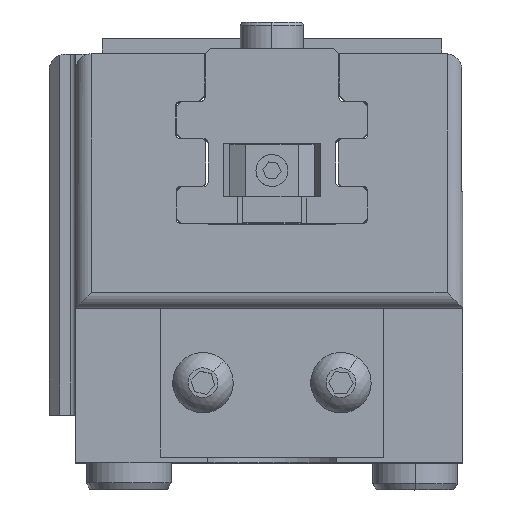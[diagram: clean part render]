
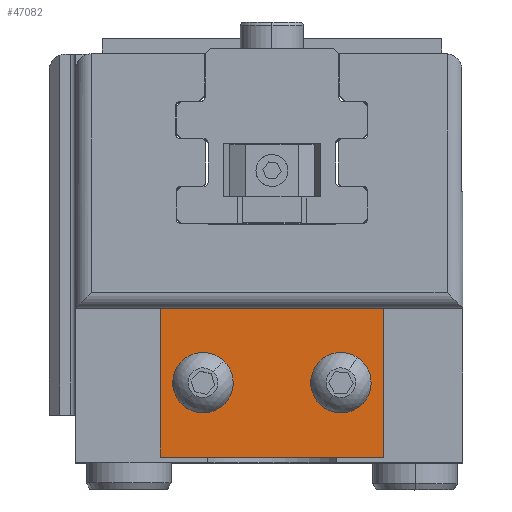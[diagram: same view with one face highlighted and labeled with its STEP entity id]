
A CAD part, top view. The second image highlights one B-rep face of the part: STEP entity #47082.
In plain terms, the highlighted planar face has unit normal (0, 0, 1) as drawn and (0, 1, 0) by its records, which use the part's own axes.
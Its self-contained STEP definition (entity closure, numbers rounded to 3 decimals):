
#142 = ORIENTED_EDGE ( 'NONE', *, *, #32370, .F. ) ;
#942 = EDGE_CURVE ( 'NONE', #68802, #52604, #68578, .T. ) ;
#4477 = FACE_OUTER_BOUND ( 'NONE', #95904, .T. ) ;
#5361 = CIRCLE ( 'NONE', #17533, 1.6 ) ;
#6053 = ORIENTED_EDGE ( 'NONE', *, *, #66755, .F. ) ;
#6381 = VECTOR ( 'NONE', #89986, 1000. ) ;
#6541 = LINE ( 'NONE', #55833, #14407 ) ;
#6695 = CARTESIAN_POINT ( 'NONE',  ( 17., 0., 1.6 ) ) ;
#12389 = EDGE_CURVE ( 'NONE', #97267, #81849, #39166, .T. ) ;
#12559 = CARTESIAN_POINT ( 'NONE',  ( 4., 0., 1.6 ) ) ;
#14407 = VECTOR ( 'NONE', #48692, 1000. ) ;
#14842 = CARTESIAN_POINT ( 'NONE',  ( 4., 0., -1.6 ) ) ;
#15610 = DIRECTION ( 'NONE',  ( 0., 0., -1. ) ) ;
#15690 = EDGE_CURVE ( 'Bordo4', #65507, #22083, #101957, .T. ) ;
#17533 = AXIS2_PLACEMENT_3D ( 'NONE', #62662, #79055, #36917 ) ;
#19061 = ORIENTED_EDGE ( 'NONE', *, *, #40778, .T. ) ;
#20097 = ORIENTED_EDGE ( 'NONE', *, *, #46593, .F. ) ;
#20587 = EDGE_LOOP ( 'NONE', ( #20097, #104430 ) ) ;
#21445 = CARTESIAN_POINT ( 'NONE',  ( 0., 0., 7. ) ) ;
#22083 = VERTEX_POINT ( 'NONE', #12559 ) ;
#22941 = LINE ( 'NONE', #56352, #50353 ) ;
#23212 = CARTESIAN_POINT ( 'NONE',  ( 21., 0., 7. ) ) ;
#29629 = DIRECTION ( 'NONE',  ( 0., 1., 0. ) ) ;
#30496 = EDGE_CURVE ( 'Bordo5', #61914, #62412, #105356, .T. ) ;
#32370 = EDGE_CURVE ( 'NONE', #61914, #97267, #22941, .T. ) ;
#33810 = ORIENTED_EDGE ( 'NONE', *, *, #12389, .F. ) ;
#35664 = DIRECTION ( 'NONE',  ( 0., 0., 1. ) ) ;
#36917 = DIRECTION ( 'NONE',  ( 0., 0., 1. ) ) ;
#38409 = DIRECTION ( 'NONE',  ( 0., -1., 0. ) ) ;
#39166 = LINE ( 'NONE', #58282, #99540 ) ;
#40778 = EDGE_CURVE ( 'Bordo7', #62412, #81849, #6541, .T. ) ;
#46532 = DIRECTION ( 'NONE',  ( -1., 0., 0. ) ) ;
#46593 = EDGE_CURVE ( 'Bordo4', #22083, #65507, #5361, .T. ) ;
#47082 = ADVANCED_FACE ( 'Faccia4', ( #56465, #96967, #4477 ), #79474, .F. ) ;
#47613 = AXIS2_PLACEMENT_3D ( 'NONE', #88875, #63155, #80639 ) ;
#48692 = DIRECTION ( 'NONE',  ( -1., 0., 0. ) ) ;
#50096 = CARTESIAN_POINT ( 'NONE',  ( 0., 0., -7. ) ) ;
#50353 = VECTOR ( 'NONE', #46532, 1000. ) ;
#51689 = CARTESIAN_POINT ( 'NONE',  ( 21., 0., 7. ) ) ;
#52604 = VERTEX_POINT ( 'NONE', #90959 ) ;
#53862 = ORIENTED_EDGE ( 'NONE', *, *, #942, .F. ) ;
#55833 = CARTESIAN_POINT ( 'NONE',  ( 0., 0., -7. ) ) ;
#56100 = AXIS2_PLACEMENT_3D ( 'NONE', #56960, #91391, #98019 ) ;
#56352 = CARTESIAN_POINT ( 'NONE',  ( 0., 0., 7. ) ) ;
#56465 = FACE_BOUND ( 'NONE', #66361, .T. ) ;
#56960 = CARTESIAN_POINT ( 'NONE',  ( 17., 0., 0. ) ) ;
#58282 = CARTESIAN_POINT ( 'NONE',  ( 0., 0., 7. ) ) ;
#61432 = CARTESIAN_POINT ( 'NONE',  ( 4., 0., 0. ) ) ;
#61914 = VERTEX_POINT ( 'NONE', #51689 ) ;
#62412 = VERTEX_POINT ( 'NONE', #75381 ) ;
#62662 = CARTESIAN_POINT ( 'NONE',  ( 4., 0., 0. ) ) ;
#63155 = DIRECTION ( 'NONE',  ( 0., 1., 0. ) ) ;
#65507 = VERTEX_POINT ( 'NONE', #14842 ) ;
#66361 = EDGE_LOOP ( 'NONE', ( #53862, #6053 ) ) ;
#66755 = EDGE_CURVE ( 'NONE', #52604, #68802, #71826, .T. ) ;
#68578 = CIRCLE ( 'NONE', #47613, 1.6 ) ;
#68802 = VERTEX_POINT ( 'NONE', #6695 ) ;
#71826 = CIRCLE ( 'NONE', #56100, 1.6 ) ;
#72280 = AXIS2_PLACEMENT_3D ( 'NONE', #61432, #29629, #35664 ) ;
#75381 = CARTESIAN_POINT ( 'NONE',  ( 21., 0., -7. ) ) ;
#79055 = DIRECTION ( 'NONE',  ( 0., 1., 0. ) ) ;
#79474 = PLANE ( 'NONE',  #104997 ) ;
#80639 = DIRECTION ( 'NONE',  ( 0., 0., 1. ) ) ;
#81849 = VERTEX_POINT ( 'NONE', #50096 ) ;
#85112 = ORIENTED_EDGE ( 'NONE', *, *, #30496, .T. ) ;
#88698 = CARTESIAN_POINT ( 'NONE',  ( 0., 0., 7. ) ) ;
#88875 = CARTESIAN_POINT ( 'NONE',  ( 17., 0., 0. ) ) ;
#89834 = DIRECTION ( 'NONE',  ( 0., 0., -1. ) ) ;
#89986 = DIRECTION ( 'NONE',  ( 0., 0., -1. ) ) ;
#90959 = CARTESIAN_POINT ( 'NONE',  ( 17., 0., -1.6 ) ) ;
#91391 = DIRECTION ( 'NONE',  ( 0., 1., 0. ) ) ;
#95904 = EDGE_LOOP ( 'NONE', ( #19061, #33810, #142, #85112 ) ) ;
#96967 = FACE_BOUND ( 'NONE', #20587, .T. ) ;
#97267 = VERTEX_POINT ( 'NONE', #88698 ) ;
#98019 = DIRECTION ( 'NONE',  ( 0., 0., 1. ) ) ;
#99540 = VECTOR ( 'NONE', #15610, 1000. ) ;
#101957 = CIRCLE ( 'NONE', #72280, 1.6 ) ;
#104430 = ORIENTED_EDGE ( 'NONE', *, *, #15690, .F. ) ;
#104997 = AXIS2_PLACEMENT_3D ( 'NONE', #21445, #38409, #89834 ) ;
#105356 = LINE ( 'NONE', #23212, #6381 ) ;
